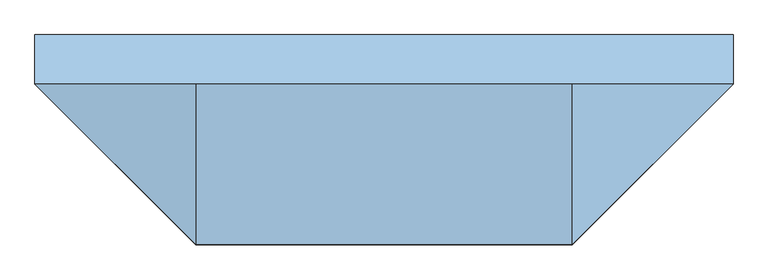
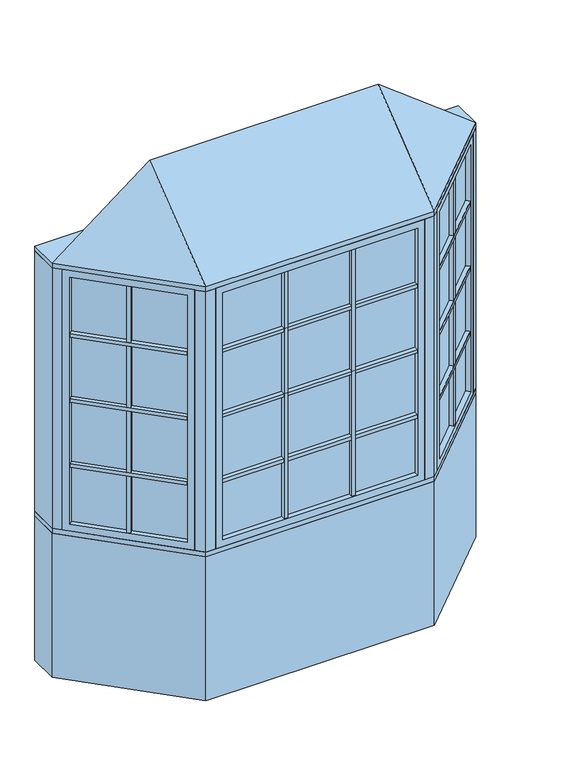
"""IFC4 building model written with IfcOpenShell, lengths in millimetres: window geometry, Pollard_Windows_Tudor Casement Bows and Bays : AML-BAY 45 AFR0614-10-600_GC."""

from ifc_helpers import new_model, si_unit, frame, origin, origin_with_axes, place, context, project, spatial, polyline, outline, extrude, faceted_brep, source, transform, mapped, element, save


def window_4e539d59(model_context):
    return source(origin(), model_context, "Body", "SolidModel", [
        extrude(outline(polyline([(639.5114193, -506.9608753), (623.9550701, -491.4045261), (1001.616171, -113.7434252), (1017.1725202, -129.2997743), (639.5114193, -506.9608753)])), frame((0.0, 0.0, 1490.998), z_axis=(0.0, 0.0, 1.0), x_axis=(1.0, 0.0, 0.0)), (0.0, 0.0, 1.0), 18.0),
        extrude(outline(polyline([(620.3629677, -487.8124236), (604.8066185, -472.2560744), (982.4677194, -94.5949735), (998.0240686, -110.1513227), (620.3629677, -487.8124236)])), frame((0.0, 0.0, 1490.998), z_axis=(0.0, 0.0, 1.0), x_axis=(1.0, 0.0, 0.0)), (0.0, 0.0, 1.0), 18.0),
        extrude(outline(polyline([(639.5114193, -506.9608753), (623.9550701, -491.4045261), (1001.616171, -113.7434252), (1017.1725202, -129.2997743), (639.5114193, -506.9608753)])), frame((0.0, 0.0, 1140.998), z_axis=(0.0, 0.0, 1.0), x_axis=(1.0, 0.0, 0.0)), (0.0, 0.0, 1.0), 18.0),
        extrude(outline(polyline([(620.3629677, -487.8124236), (604.8066185, -472.2560744), (982.4677194, -94.5949735), (998.0240686, -110.1513227), (620.3629677, -487.8124236)])), frame((0.0, 0.0, 1140.998), z_axis=(0.0, 0.0, 1.0), x_axis=(1.0, 0.0, 0.0)), (0.0, 0.0, 1.0), 18.0),
        extrude(outline(polyline([(639.5114193, -506.9608753), (623.9550701, -491.4045261), (1001.616171, -113.7434252), (1017.1725202, -129.2997743), (639.5114193, -506.9608753)])), frame((0.0, 0.0, 1490.998), z_axis=(0.0, 0.0, 1.0), x_axis=(1.0, 0.0, 0.0)), (0.0, 0.0, 1.0), 18.0),
        extrude(outline(polyline([(620.3629677, -487.8124236), (604.8066185, -472.2560744), (982.4677194, -94.5949735), (998.0240686, -110.1513227), (620.3629677, -487.8124236)])), frame((0.0, 0.0, 1490.998), z_axis=(0.0, 0.0, 1.0), x_axis=(1.0, 0.0, 0.0)), (0.0, 0.0, 1.0), 18.0),
        extrude(outline(polyline([(639.5114193, -506.9608753), (623.9550701, -491.4045261), (1001.616171, -113.7434252), (1017.1725202, -129.2997743), (639.5114193, -506.9608753)])), frame((0.0, 0.0, 1490.998), z_axis=(0.0, 0.0, 1.0), x_axis=(1.0, 0.0, 0.0)), (0.0, 0.0, 1.0), 18.0),
        extrude(outline(polyline([(620.3629677, -487.8124236), (604.8066185, -472.2560744), (982.4677194, -94.5949735), (998.0240686, -110.1513227), (620.3629677, -487.8124236)])), frame((0.0, 0.0, 1490.998), z_axis=(0.0, 0.0, 1.0), x_axis=(1.0, 0.0, 0.0)), (0.0, 0.0, 1.0), 18.0),
        extrude(outline(polyline([(639.5114193, -506.9608753), (623.9550701, -491.4045261), (1001.616171, -113.7434252), (1017.1725202, -129.2997743), (639.5114193, -506.9608753)])), frame((0.0, 0.0, 1840.998), z_axis=(0.0, 0.0, 1.0), x_axis=(1.0, 0.0, 0.0)), (0.0, 0.0, 1.0), 18.0),
        extrude(outline(polyline([(620.3629677, -487.8124236), (604.8066185, -472.2560744), (982.4677194, -94.5949735), (998.0240686, -110.1513227), (620.3629677, -487.8124236)])), frame((0.0, 0.0, 1840.998), z_axis=(0.0, 0.0, 1.0), x_axis=(1.0, 0.0, 0.0)), (0.0, 0.0, 1.0), 18.0),
        extrude(outline(polyline([(819.1495816, -296.2100146), (834.7059308, -311.7663638), (821.9780087, -324.4942858), (806.4216595, -308.9379366), (819.1495816, -296.2100146)])), frame((0.0, 0.0, 835.8628), z_axis=(0.0, 0.0, 1.0), x_axis=(1.0, 0.0, 0.0)), (0.0, 0.0, 1.0), 1328.2704),
        extrude(outline(polyline([(815.5574791, -292.6179121), (802.8295571, -305.3458342), (787.2732079, -289.789485), (800.00113, -277.0615629), (815.5574791, -292.6179121)])), frame((0.0, 0.0, 835.8628), z_axis=(0.0, 0.0, 1.0), x_axis=(1.0, 0.0, 0.0)), (0.0, 0.0, 1.0), 1328.2704),
        extrude(outline(polyline([(1010.5964271, -104.763169), (614.974814, -500.3847822), (611.3827115, -496.7926797), (1007.0043247, -101.1710666), (1010.5964271, -104.763169)])), frame((0.0, 0.0, 823.1628), z_axis=(0.0, 0.0, 1.0), x_axis=(1.0, 0.0, 0.0)), (0.0, 0.0, 1.0), 1353.6704),
        faceted_brep([(1001.616171, -113.7434252, 835.8628), (1019.5766833, -131.7039374, 835.8628), (1019.5766833, -131.7039374, 2164.1332), (1001.616171, -113.7434252, 2164.1332), (1007.0043247, -101.1710666, 823.1628), (1010.5964271, -104.763169, 823.1628), (1010.5964271, -104.763169, 2176.8332), (1007.0043247, -101.1710666, 2176.8332), (980.0635563, -92.1908105, 835.8628), (998.0240686, -110.1513227, 835.8628), (998.0240686, -110.1513227, 2164.1332), (980.0635563, -92.1908105, 2164.1332), (1044.9369265, -106.3436941, 799.998), (1005.4237996, -66.8305672, 799.998), (1005.4237996, -66.8305672, 2199.998), (1044.9369265, -106.3436941, 2199.998), (641.9155823, -509.3650383, 2164.1332), (623.9550701, -491.4045261, 2164.1332), (614.974814, -500.3847822, 2176.8332), (611.3827115, -496.7926797, 2176.8332), (620.3629677, -487.8124236, 2164.1332), (602.4024554, -469.8519114, 2164.1332), (577.0422121, -495.2121547, 2199.998), (616.5553391, -534.7252816, 2199.998), (641.9155823, -509.3650383, 835.8628), (623.9550701, -491.4045261, 835.8628), (614.974814, -500.3847822, 823.1628), (611.3827115, -496.7926797, 823.1628), (620.3629677, -487.8124236, 835.8628), (602.4024554, -469.8519114, 835.8628), (577.0422121, -495.2121547, 799.998), (616.5553391, -534.7252816, 799.998)], [[[0, 1, 2, 3]], [[4, 5, 6, 7]], [[8, 9, 10, 11]], [[12, 13, 14, 15]], [[3, 2, 16, 17]], [[7, 6, 18, 19]], [[11, 10, 20, 21]], [[15, 14, 22, 23]], [[17, 16, 24, 25]], [[19, 18, 26, 27]], [[21, 20, 28, 29]], [[23, 22, 30, 31]], [[25, 24, 1, 0]], [[5, 26, 18, 6], [3, 17, 25, 0]], [[27, 26, 5, 4]], [[7, 19, 27, 4], [9, 28, 20, 10]], [[29, 28, 9, 8]], [[13, 30, 22, 14], [11, 21, 29, 8]], [[31, 30, 13, 12]], [[15, 23, 31, 12], [1, 24, 16, 2]]]),
        extrude(outline(polyline([(181.3452, -544.6806207), (181.3452, -566.6806207), (163.3452, -566.6806207), (163.3452, -544.6806207), (181.3452, -544.6806207)])), frame((0.0, 0.0, 835.8628), z_axis=(0.0, 0.0, 1.0), x_axis=(1.0, 0.0, 0.0)), (0.0, 0.0, 1.0), 1328.2704),
        extrude(outline(polyline([(181.3452, -539.6006207), (163.3452, -539.6006207), (163.3452, -517.6006207), (181.3452, -517.6006207), (181.3452, -539.6006207)])), frame((0.0, 0.0, 835.8628), z_axis=(0.0, 0.0, 1.0), x_axis=(1.0, 0.0, 0.0)), (0.0, 0.0, 1.0), 1328.2704),
        extrude(outline(polyline([(-163.3452, -544.6806207), (-163.3452, -566.6806207), (-181.3452, -566.6806207), (-181.3452, -544.6806207), (-163.3452, -544.6806207)])), frame((0.0, 0.0, 835.8628), z_axis=(0.0, 0.0, 1.0), x_axis=(1.0, 0.0, 0.0)), (0.0, 0.0, 1.0), 1328.2704),
        extrude(outline(polyline([(-163.3452, -539.6006207), (-181.3452, -539.6006207), (-181.3452, -517.6006207), (-163.3452, -517.6006207), (-163.3452, -539.6006207)])), frame((0.0, 0.0, 835.8628), z_axis=(0.0, 0.0, 1.0), x_axis=(1.0, 0.0, 0.0)), (0.0, 0.0, 1.0), 1328.2704),
        extrude(outline(polyline([(-495.3352, -566.6806207), (-495.3352, -544.6806207), (495.3352, -544.6806207), (495.3352, -566.6806207), (-495.3352, -566.6806207)])), frame((0.0, 0.0, 1140.998), z_axis=(0.0, 0.0, 1.0), x_axis=(1.0, 0.0, 0.0)), (0.0, 0.0, 1.0), 18.0),
        extrude(outline(polyline([(-495.3352, -539.6006207), (-495.3352, -517.6006207), (495.3352, -517.6006207), (495.3352, -539.6006207), (-495.3352, -539.6006207)])), frame((0.0, 0.0, 1140.998), z_axis=(0.0, 0.0, 1.0), x_axis=(1.0, 0.0, 0.0)), (0.0, 0.0, 1.0), 18.0),
        extrude(outline(polyline([(-495.3352, -566.6806207), (-495.3352, -544.6806207), (495.3352, -544.6806207), (495.3352, -566.6806207), (-495.3352, -566.6806207)])), frame((0.0, 0.0, 1490.998), z_axis=(0.0, 0.0, 1.0), x_axis=(1.0, 0.0, 0.0)), (0.0, 0.0, 1.0), 18.0),
        extrude(outline(polyline([(-495.3352, -539.6006207), (-495.3352, -517.6006207), (495.3352, -517.6006207), (495.3352, -539.6006207), (-495.3352, -539.6006207)])), frame((0.0, 0.0, 1490.998), z_axis=(0.0, 0.0, 1.0), x_axis=(1.0, 0.0, 0.0)), (0.0, 0.0, 1.0), 18.0),
        extrude(outline(polyline([(-495.3352, -566.6806207), (-495.3352, -544.6806207), (495.3352, -544.6806207), (495.3352, -566.6806207), (-495.3352, -566.6806207)])), frame((0.0, 0.0, 1490.998), z_axis=(0.0, 0.0, 1.0), x_axis=(1.0, 0.0, 0.0)), (0.0, 0.0, 1.0), 18.0),
        extrude(outline(polyline([(-495.3352, -539.6006207), (-495.3352, -517.6006207), (495.3352, -517.6006207), (495.3352, -539.6006207), (-495.3352, -539.6006207)])), frame((0.0, 0.0, 1490.998), z_axis=(0.0, 0.0, 1.0), x_axis=(1.0, 0.0, 0.0)), (0.0, 0.0, 1.0), 18.0),
        extrude(outline(polyline([(-495.3352, -566.6806207), (-495.3352, -544.6806207), (495.3352, -544.6806207), (495.3352, -566.6806207), (-495.3352, -566.6806207)])), frame((0.0, 0.0, 1490.998), z_axis=(0.0, 0.0, 1.0), x_axis=(1.0, 0.0, 0.0)), (0.0, 0.0, 1.0), 18.0),
        extrude(outline(polyline([(-495.3352, -539.6006207), (-495.3352, -517.6006207), (495.3352, -517.6006207), (495.3352, -539.6006207), (-495.3352, -539.6006207)])), frame((0.0, 0.0, 1490.998), z_axis=(0.0, 0.0, 1.0), x_axis=(1.0, 0.0, 0.0)), (0.0, 0.0, 1.0), 18.0),
        extrude(outline(polyline([(-1017.1725202, -129.2997743), (-1001.616171, -113.7434252), (-623.9550701, -491.4045261), (-639.5114193, -506.9608753), (-1017.1725202, -129.2997743)])), frame((0.0, 0.0, 1140.998), z_axis=(0.0, 0.0, 1.0), x_axis=(1.0, 0.0, 0.0)), (0.0, 0.0, 1.0), 18.0),
        extrude(outline(polyline([(-998.0240686, -110.1513227), (-982.4677194, -94.5949735), (-604.8066185, -472.2560744), (-620.3629677, -487.8124236), (-998.0240686, -110.1513227)])), frame((0.0, 0.0, 1140.998), z_axis=(0.0, 0.0, 1.0), x_axis=(1.0, 0.0, 0.0)), (0.0, 0.0, 1.0), 18.0),
        extrude(outline(polyline([(-1017.1725202, -129.2997743), (-1001.616171, -113.7434252), (-623.9550701, -491.4045261), (-639.5114193, -506.9608753), (-1017.1725202, -129.2997743)])), frame((0.0, 0.0, 1490.998), z_axis=(0.0, 0.0, 1.0), x_axis=(1.0, 0.0, 0.0)), (0.0, 0.0, 1.0), 18.0),
        extrude(outline(polyline([(-998.0240686, -110.1513227), (-982.4677194, -94.5949735), (-604.8066185, -472.2560744), (-620.3629677, -487.8124236), (-998.0240686, -110.1513227)])), frame((0.0, 0.0, 1490.998), z_axis=(0.0, 0.0, 1.0), x_axis=(1.0, 0.0, 0.0)), (0.0, 0.0, 1.0), 18.0),
        extrude(outline(polyline([(-1017.1725202, -129.2997743), (-1001.616171, -113.7434252), (-623.9550701, -491.4045261), (-639.5114193, -506.9608753), (-1017.1725202, -129.2997743)])), frame((0.0, 0.0, 1490.998), z_axis=(0.0, 0.0, 1.0), x_axis=(1.0, 0.0, 0.0)), (0.0, 0.0, 1.0), 18.0),
        extrude(outline(polyline([(-998.0240686, -110.1513227), (-982.4677194, -94.5949735), (-604.8066185, -472.2560744), (-620.3629677, -487.8124236), (-998.0240686, -110.1513227)])), frame((0.0, 0.0, 1490.998), z_axis=(0.0, 0.0, 1.0), x_axis=(1.0, 0.0, 0.0)), (0.0, 0.0, 1.0), 18.0),
        extrude(outline(polyline([(-1017.1725202, -129.2997743), (-1001.616171, -113.7434252), (-623.9550701, -491.4045261), (-639.5114193, -506.9608753), (-1017.1725202, -129.2997743)])), frame((0.0, 0.0, 1490.998), z_axis=(0.0, 0.0, 1.0), x_axis=(1.0, 0.0, 0.0)), (0.0, 0.0, 1.0), 18.0),
        extrude(outline(polyline([(-998.0240686, -110.1513227), (-982.4677194, -94.5949735), (-604.8066185, -472.2560744), (-620.3629677, -487.8124236), (-998.0240686, -110.1513227)])), frame((0.0, 0.0, 1490.998), z_axis=(0.0, 0.0, 1.0), x_axis=(1.0, 0.0, 0.0)), (0.0, 0.0, 1.0), 18.0),
        extrude(outline(polyline([(-1017.1725202, -129.2997743), (-1001.616171, -113.7434252), (-623.9550701, -491.4045261), (-639.5114193, -506.9608753), (-1017.1725202, -129.2997743)])), frame((0.0, 0.0, 1840.998), z_axis=(0.0, 0.0, 1.0), x_axis=(1.0, 0.0, 0.0)), (0.0, 0.0, 1.0), 18.0),
        extrude(outline(polyline([(-998.0240686, -110.1513227), (-982.4677194, -94.5949735), (-604.8066185, -472.2560744), (-620.3629677, -487.8124236), (-998.0240686, -110.1513227)])), frame((0.0, 0.0, 1840.998), z_axis=(0.0, 0.0, 1.0), x_axis=(1.0, 0.0, 0.0)), (0.0, 0.0, 1.0), 18.0),
        extrude(outline(polyline([(-495.3352, -566.6806207), (-495.3352, -544.6806207), (495.3352, -544.6806207), (495.3352, -566.6806207), (-495.3352, -566.6806207)])), frame((0.0, 0.0, 1840.998), z_axis=(0.0, 0.0, 1.0), x_axis=(1.0, 0.0, 0.0)), (0.0, 0.0, 1.0), 18.0),
        extrude(outline(polyline([(-495.3352, -539.6006207), (-495.3352, -517.6006207), (495.3352, -517.6006207), (495.3352, -539.6006207), (-495.3352, -539.6006207)])), frame((0.0, 0.0, 1840.998), z_axis=(0.0, 0.0, 1.0), x_axis=(1.0, 0.0, 0.0)), (0.0, 0.0, 1.0), 18.0),
        extrude(outline(polyline([(-806.4216595, -308.9379366), (-821.9780087, -324.4942858), (-834.7059308, -311.7663638), (-819.1495816, -296.2100146), (-806.4216595, -308.9379366)])), frame((0.0, 0.0, 835.8628), z_axis=(0.0, 0.0, 1.0), x_axis=(1.0, 0.0, 0.0)), (0.0, 0.0, 1.0), 1328.2704),
        extrude(outline(polyline([(-802.8295571, -305.3458342), (-815.5574791, -292.6179121), (-800.00113, -277.0615629), (-787.2732079, -289.789485), (-802.8295571, -305.3458342)])), frame((0.0, 0.0, 835.8628), z_axis=(0.0, 0.0, 1.0), x_axis=(1.0, 0.0, 0.0)), (0.0, 0.0, 1.0), 1328.2704),
        extrude(outline(polyline([(-614.974814, -500.3847822), (-1010.5964271, -104.763169), (-1007.0043247, -101.1710666), (-611.3827115, -496.7926797), (-614.974814, -500.3847822)])), frame((0.0, 0.0, 823.1628), z_axis=(0.0, 0.0, 1.0), x_axis=(1.0, 0.0, 0.0)), (0.0, 0.0, 1.0), 1353.6704),
        faceted_brep([(-620.3629677, -487.8124236, 2164.1332), (-602.4024554, -469.8519114, 2164.1332), (-602.4024554, -469.8519114, 835.8628), (-620.3629677, -487.8124236, 835.8628), (-614.974814, -500.3847822, 2176.8332), (-611.3827115, -496.7926797, 2176.8332), (-611.3827115, -496.7926797, 823.1628), (-614.974814, -500.3847822, 823.1628), (-641.9155823, -509.3650383, 2164.1332), (-623.9550701, -491.4045261, 2164.1332), (-623.9550701, -491.4045261, 835.8628), (-641.9155823, -509.3650383, 835.8628), (-577.0422121, -495.2121547, 2199.998), (-616.5553391, -534.7252816, 2199.998), (-616.5553391, -534.7252816, 799.998), (-577.0422121, -495.2121547, 799.998), (-980.0635563, -92.1908105, 835.8628), (-998.0240686, -110.1513227, 835.8628), (-1007.0043247, -101.1710666, 823.1628), (-1010.5964271, -104.763169, 823.1628), (-1001.616171, -113.7434252, 835.8628), (-1019.5766833, -131.7039374, 835.8628), (-1044.9369265, -106.3436941, 799.998), (-1005.4237996, -66.8305672, 799.998), (-980.0635563, -92.1908105, 2164.1332), (-998.0240686, -110.1513227, 2164.1332), (-1007.0043247, -101.1710666, 2176.8332), (-1010.5964271, -104.763169, 2176.8332), (-1001.616171, -113.7434252, 2164.1332), (-1019.5766833, -131.7039374, 2164.1332), (-1044.9369265, -106.3436941, 2199.998), (-1005.4237996, -66.8305672, 2199.998)], [[[0, 1, 2, 3]], [[4, 5, 6, 7]], [[8, 9, 10, 11]], [[12, 13, 14, 15]], [[3, 2, 16, 17]], [[7, 6, 18, 19]], [[11, 10, 20, 21]], [[15, 14, 22, 23]], [[17, 16, 24, 25]], [[19, 18, 26, 27]], [[21, 20, 28, 29]], [[23, 22, 30, 31]], [[15, 23, 31, 12], [1, 24, 16, 2]], [[25, 24, 1, 0]], [[5, 26, 18, 6], [3, 17, 25, 0]], [[27, 26, 5, 4]], [[7, 19, 27, 4], [9, 28, 20, 10]], [[29, 28, 9, 8]], [[13, 30, 22, 14], [11, 21, 29, 8]], [[31, 30, 13, 12]]]),
        extrude(outline(polyline([(508.0352, -544.6806207), (-508.0352, -544.6806207), (-508.0352, -539.6006207), (508.0352, -539.6006207), (508.0352, -544.6806207)])), frame((0.0, 0.0, 823.1628), z_axis=(0.0, 0.0, 1.0), x_axis=(1.0, 0.0, 0.0)), (0.0, 0.0, 1.0), 1353.6704),
        faceted_brep([(495.3352, -544.6806207, 835.8628), (495.3352, -570.0806207, 835.8628), (495.3352, -570.0806207, 2164.1332), (495.3352, -544.6806207, 2164.1332), (508.0352, -539.6006207, 823.1628), (508.0352, -544.6806207, 823.1628), (508.0352, -544.6806207, 2176.8332), (508.0352, -539.6006207, 2176.8332), (495.3352, -514.2006207, 835.8628), (495.3352, -539.6006207, 835.8628), (495.3352, -539.6006207, 2164.1332), (495.3352, -514.2006207, 2164.1332), (531.2, -570.0806207, 799.998), (531.2, -514.2006207, 799.998), (531.2, -514.2006207, 2199.998), (531.2, -570.0806207, 2199.998), (-495.3352, -570.0806207, 2164.1332), (-495.3352, -544.6806207, 2164.1332), (-508.0352, -544.6806207, 2176.8332), (-508.0352, -539.6006207, 2176.8332), (-495.3352, -539.6006207, 2164.1332), (-495.3352, -514.2006207, 2164.1332), (-531.2, -514.2006207, 2199.998), (-531.2, -570.0806207, 2199.998), (-495.3352, -570.0806207, 835.8628), (-495.3352, -544.6806207, 835.8628), (-508.0352, -544.6806207, 823.1628), (-508.0352, -539.6006207, 823.1628), (-495.3352, -539.6006207, 835.8628), (-495.3352, -514.2006207, 835.8628), (-531.2, -514.2006207, 799.998), (-531.2, -570.0806207, 799.998)], [[[0, 1, 2, 3]], [[4, 5, 6, 7]], [[8, 9, 10, 11]], [[12, 13, 14, 15]], [[3, 2, 16, 17]], [[7, 6, 18, 19]], [[11, 10, 20, 21]], [[15, 14, 22, 23]], [[17, 16, 24, 25]], [[19, 18, 26, 27]], [[21, 20, 28, 29]], [[23, 22, 30, 31]], [[15, 23, 31, 12], [1, 24, 16, 2]], [[25, 24, 1, 0]], [[5, 26, 18, 6], [3, 17, 25, 0]], [[27, 26, 5, 4]], [[7, 19, 27, 4], [9, 28, 20, 10]], [[29, 28, 9, 8]], [[13, 30, 22, 14], [11, 21, 29, 8]], [[31, 30, 13, 12]]]),
        faceted_brep([(1076.5, -74.7806207, 2225.398), (581.2, -570.0806207, 2225.398), (-581.2, -570.0806207, 2225.398), (-1076.5, -74.7806207, 2225.398), (-581.2, -74.7806207, 2606.398), (581.2, -74.7806207, 2606.398)], [[[0, 1, 2, 3]], [[3, 2, 4]], [[2, 1, 5, 4]], [[1, 0, 5]], [[0, 3, 4, 5]]]),
        extrude(outline(polyline([(-1076.5, 77.6193793), (1076.5, 77.6193793), (1076.5, -74.7806207), (581.2, -570.0806207), (-581.2, -570.0806207), (-1076.5, -74.7806207), (-1076.5, 77.6193793)])), frame((0.0, 0.0, 2199.998), z_axis=(0.0, 0.0, 1.0), x_axis=(1.0, 0.0, 0.0)), (0.0, 0.0, 1.0), 25.4),
        extrude(outline(polyline([(-1076.5, -74.7806207), (-1076.5, 77.6193793), (-1013.3738531, 77.6193793), (-1013.3738531, -74.7806207), (-1044.9369265, -106.3436941), (-1076.5, -74.7806207)])), frame((0.0, 0.0, 799.998), z_axis=(0.0, 0.0, 1.0), x_axis=(1.0, 0.0, 0.0)), (0.0, 0.0, 1.0), 1400.0),
        extrude(outline(polyline([(1076.5, 77.6193793), (1076.5, -74.7806207), (1044.9369265, -106.3436941), (1013.3738531, -74.7806207), (1013.3738531, 77.6193793), (1076.5, 77.6193793)])), frame((0.0, 0.0, 799.998), z_axis=(0.0, 0.0, 1.0), x_axis=(1.0, 0.0, 0.0)), (0.0, 0.0, 1.0), 1400.0),
        extrude(outline(polyline([(581.2, -570.0806207), (531.2, -570.0806207), (531.2, -520.0806207), (560.4893219, -520.0806207), (581.2, -499.3699425), (616.5553391, -534.7252816), (581.2, -570.0806207)])), frame((0.0, 0.0, 799.998), z_axis=(0.0, 0.0, 1.0), x_axis=(1.0, 0.0, 0.0)), (0.0, 0.0, 1.0), 1400.0),
        extrude(outline(polyline([(-581.2, -570.0806207), (-616.5553391, -534.7252816), (-581.2, -499.3699425), (-560.4893219, -520.0806207), (-531.2, -520.0806207), (-531.2, -570.0806207), (-581.2, -570.0806207)])), frame((0.0, 0.0, 799.998), z_axis=(0.0, 0.0, 1.0), x_axis=(1.0, 0.0, 0.0)), (0.0, 0.0, 1.0), 1400.0),
        extrude(outline(polyline([(-581.2, -570.0806207), (-1076.5, -74.7806207), (-1076.5, 77.6193793), (-1013.3738531, 77.6193793), (-518.0738531, -417.6806207), (518.0738531, -417.6806207), (1013.3738531, 77.6193793), (1076.5, 77.6193793), (1076.5, -74.7806207), (581.2, -570.0806207), (-581.2, -570.0806207)])), frame((0.0, 0.0, 774.598), z_axis=(0.0, 0.0, 1.0), x_axis=(1.0, 0.0, 0.0)), (0.0, 0.0, 1.0), 25.4),
        extrude(outline(polyline([(-1076.5, -74.7806207), (-1076.5, 77.6193793), (-1013.3738531, 77.6193793), (-518.0738531, -417.6806207), (518.0738531, -417.6806207), (1013.3738531, 77.6193793), (1076.5, 77.6193793), (1076.5, -74.7806207), (581.2, -570.0806207), (-581.2, -570.0806207), (-1076.5, -74.7806207)])), origin_with_axes(), (0.0, 0.0, 1.0), 774.598),
    ])


if __name__ == "__main__":
    model = new_model("IFC4")
    model_context = context("Model", 3, world=origin())
    ifc_project = project(units=[si_unit("LENGTHUNIT", "METRE", prefix="MILLI")], contexts=[model_context])
    site = spatial("IfcSite", under=ifc_project)
    building = spatial("IfcBuilding", under=site)
    placement = place(None, origin())
    window_shape = window_4e539d59(model_context)
    element("IfcWindow", 1, ObjectType="Pollard_Windows_Tudor Casement Bows and Bays : AML-BAY 45 AFR0614-10-600_GC", at=placement, inside=building, context=model_context, shape_type="MappedRepresentation", body=[
        mapped(window_shape, transform((0.0, 0.0, 0.0), x_axis=(1.0, 0.0, 0.0), y_axis=(0.0, 1.0, 0.0), z_axis=(0.0, 0.0, 1.0))),
    ])
    save(model, "model.ifc")
